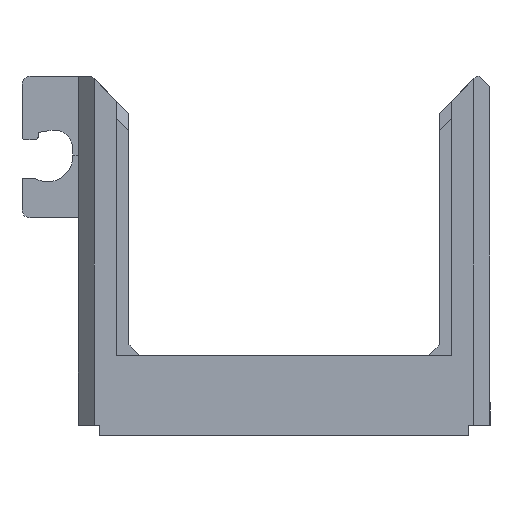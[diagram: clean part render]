
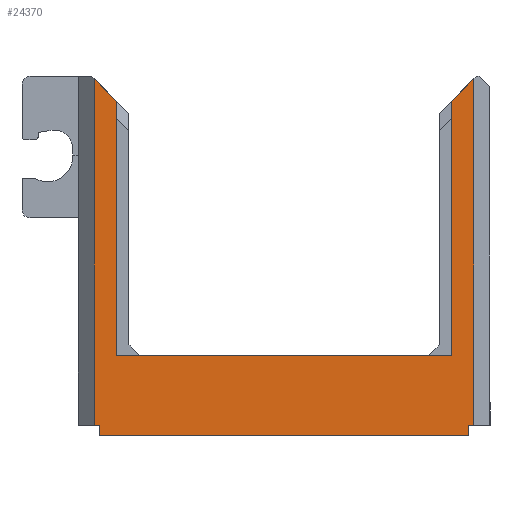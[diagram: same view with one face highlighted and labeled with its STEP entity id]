
A CAD part, front view. The second image highlights one B-rep face of the part: STEP entity #24370.
In plain terms, the highlighted planar face has unit normal (0, -1, 0).
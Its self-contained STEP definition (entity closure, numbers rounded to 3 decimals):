
#57 = CARTESIAN_POINT ( 'NONE',  ( -14.6, -9.9, 0. ) ) ;
#935 = VERTEX_POINT ( 'NONE', #13918 ) ;
#1046 = VECTOR ( 'NONE', #9262, 1000. ) ;
#1364 = ORIENTED_EDGE ( 'NONE', *, *, #17674, .F. ) ;
#1629 = ORIENTED_EDGE ( 'NONE', *, *, #25812, .F. ) ;
#1766 = CARTESIAN_POINT ( 'NONE',  ( -15.4, -9.9, 0.4 ) ) ;
#1941 = CARTESIAN_POINT ( 'NONE',  ( -1.45, -9.9, 3. ) ) ;
#1963 = CARTESIAN_POINT ( 'NONE',  ( -14.8, -9.9, 0.4 ) ) ;
#2304 = VERTEX_POINT ( 'NONE', #2964 ) ;
#2455 = LINE ( 'NONE', #12529, #8891 ) ;
#2525 = VERTEX_POINT ( 'NONE', #4225 ) ;
#2846 = VERTEX_POINT ( 'NONE', #6151 ) ;
#2863 = VERTEX_POINT ( 'NONE', #1963 ) ;
#2964 = CARTESIAN_POINT ( 'NONE',  ( -0.8, -9.9, 0.4 ) ) ;
#3003 = LINE ( 'NONE', #18678, #10203 ) ;
#3503 = LINE ( 'NONE', #11226, #1046 ) ;
#4225 = CARTESIAN_POINT ( 'NONE',  ( -13.95, -9.9, 12.5 ) ) ;
#4602 = DIRECTION ( 'NONE',  ( -1., 0., 0. ) ) ;
#4818 = DIRECTION ( 'NONE',  ( 0., 0., 1. ) ) ;
#4940 = DIRECTION ( 'NONE',  ( 0., 0., 1. ) ) ;
#5002 = DIRECTION ( 'NONE',  ( 0., 0., -1. ) ) ;
#5754 = CARTESIAN_POINT ( 'NONE',  ( -13.5, -9.9, 12.05 ) ) ;
#5884 = LINE ( 'NONE', #5754, #18119 ) ;
#6151 = CARTESIAN_POINT ( 'NONE',  ( -0.6, -9.9, 0.4 ) ) ;
#6392 = CARTESIAN_POINT ( 'NONE',  ( -13.95, -9.9, 3. ) ) ;
#6613 = PLANE ( 'NONE',  #7501 ) ;
#7501 = AXIS2_PLACEMENT_3D ( 'NONE', #8957, #20849, #14587 ) ;
#7607 = VECTOR ( 'NONE', #17553, 1000. ) ;
#7716 = CARTESIAN_POINT ( 'NONE',  ( 0., -9.9, 0.4 ) ) ;
#8153 = VERTEX_POINT ( 'NONE', #17308 ) ;
#8704 = FACE_OUTER_BOUND ( 'NONE', #14841, .T. ) ;
#8764 = VECTOR ( 'NONE', #4818, 1000. ) ;
#8891 = VECTOR ( 'NONE', #16564, 1000. ) ;
#8957 = CARTESIAN_POINT ( 'NONE',  ( -16.55, -9.9, 10.45 ) ) ;
#9245 = EDGE_CURVE ( 'NONE', #15540, #2863, #15360, .T. ) ;
#9262 = DIRECTION ( 'NONE',  ( -1., 0., 0. ) ) ;
#9433 = DIRECTION ( 'NONE',  ( -1., 0., 0. ) ) ;
#9463 = EDGE_CURVE ( 'NONE', #935, #15540, #9993, .T. ) ;
#9794 = VERTEX_POINT ( 'NONE', #22251 ) ;
#9993 = LINE ( 'NONE', #57, #18040 ) ;
#10095 = LINE ( 'NONE', #16107, #16039 ) ;
#10203 = VECTOR ( 'NONE', #25078, 1000. ) ;
#10708 = VERTEX_POINT ( 'NONE', #18867 ) ;
#10866 = ORIENTED_EDGE ( 'NONE', *, *, #17021, .F. ) ;
#11139 = EDGE_CURVE ( 'NONE', #22555, #22690, #10095, .T. ) ;
#11219 = ORIENTED_EDGE ( 'NONE', *, *, #9245, .F. ) ;
#11226 = CARTESIAN_POINT ( 'NONE',  ( 0., -9.9, 0. ) ) ;
#11394 = VECTOR ( 'NONE', #9433, 1000. ) ;
#11511 = ORIENTED_EDGE ( 'NONE', *, *, #12770, .T. ) ;
#11818 = EDGE_CURVE ( 'NONE', #12922, #935, #3503, .T. ) ;
#11863 = ORIENTED_EDGE ( 'NONE', *, *, #11818, .F. ) ;
#12039 = LINE ( 'NONE', #7716, #11394 ) ;
#12099 = DIRECTION ( 'NONE',  ( 0., 0., 1. ) ) ;
#12466 = EDGE_CURVE ( 'NONE', #2525, #8153, #5884, .T. ) ;
#12529 = CARTESIAN_POINT ( 'NONE',  ( -13.95, -9.9, 10.45 ) ) ;
#12770 = EDGE_CURVE ( 'NONE', #10708, #9794, #3003, .T. ) ;
#12922 = VERTEX_POINT ( 'NONE', #19577 ) ;
#13918 = CARTESIAN_POINT ( 'NONE',  ( -14.6, -9.9, 0. ) ) ;
#13992 = DIRECTION ( 'NONE',  ( -0.707, 0., 0.707 ) ) ;
#14395 = ORIENTED_EDGE ( 'NONE', *, *, #12466, .T. ) ;
#14587 = DIRECTION ( 'NONE',  ( 0., 0., -1. ) ) ;
#14750 = CARTESIAN_POINT ( 'NONE',  ( -14.8, -9.9, -0.449 ) ) ;
#14841 = EDGE_LOOP ( 'NONE', ( #24143, #17944, #10866, #14395, #15600, #11219, #18180, #11863, #1629, #24575, #1364, #11511 ) ) ;
#15360 = LINE ( 'NONE', #1766, #25558 ) ;
#15540 = VERTEX_POINT ( 'NONE', #22090 ) ;
#15600 = ORIENTED_EDGE ( 'NONE', *, *, #24043, .F. ) ;
#15718 = CARTESIAN_POINT ( 'NONE',  ( -0.6, -9.9, 14.299 ) ) ;
#16039 = VECTOR ( 'NONE', #4602, 1000. ) ;
#16107 = CARTESIAN_POINT ( 'NONE',  ( -1.9, -9.9, 3. ) ) ;
#16534 = EDGE_CURVE ( 'NONE', #2846, #2304, #12039, .T. ) ;
#16564 = DIRECTION ( 'NONE',  ( 0., 0., -1. ) ) ;
#16572 = LINE ( 'NONE', #16826, #22471 ) ;
#16705 = LINE ( 'NONE', #14750, #8764 ) ;
#16826 = CARTESIAN_POINT ( 'NONE',  ( -1.45, -9.9, 10.45 ) ) ;
#17021 = EDGE_CURVE ( 'NONE', #2525, #22690, #2455, .T. ) ;
#17287 = VECTOR ( 'NONE', #5002, 1000. ) ;
#17308 = CARTESIAN_POINT ( 'NONE',  ( -14.8, -9.9, 13.35 ) ) ;
#17553 = DIRECTION ( 'NONE',  ( 0., 0., -1. ) ) ;
#17674 = EDGE_CURVE ( 'NONE', #10708, #2846, #23439, .T. ) ;
#17698 = DIRECTION ( 'NONE',  ( -1., 0., 0. ) ) ;
#17944 = ORIENTED_EDGE ( 'NONE', *, *, #11139, .T. ) ;
#18040 = VECTOR ( 'NONE', #12099, 1000. ) ;
#18119 = VECTOR ( 'NONE', #13992, 1000. ) ;
#18180 = ORIENTED_EDGE ( 'NONE', *, *, #9463, .F. ) ;
#18678 = CARTESIAN_POINT ( 'NONE',  ( -0.5, -9.9, 13.45 ) ) ;
#18867 = CARTESIAN_POINT ( 'NONE',  ( -0.6, -9.9, 13.35 ) ) ;
#19577 = CARTESIAN_POINT ( 'NONE',  ( -0.8, -9.9, 0. ) ) ;
#20849 = DIRECTION ( 'NONE',  ( 0., -1., 0. ) ) ;
#22090 = CARTESIAN_POINT ( 'NONE',  ( -14.6, -9.9, 0.4 ) ) ;
#22251 = CARTESIAN_POINT ( 'NONE',  ( -1.45, -9.9, 12.5 ) ) ;
#22471 = VECTOR ( 'NONE', #4940, 1000. ) ;
#22555 = VERTEX_POINT ( 'NONE', #1941 ) ;
#22690 = VERTEX_POINT ( 'NONE', #6392 ) ;
#22758 = EDGE_CURVE ( 'NONE', #22555, #9794, #16572, .T. ) ;
#22899 = CARTESIAN_POINT ( 'NONE',  ( -0.8, -9.9, 0. ) ) ;
#23439 = LINE ( 'NONE', #15718, #7607 ) ;
#24043 = EDGE_CURVE ( 'NONE', #2863, #8153, #16705, .T. ) ;
#24143 = ORIENTED_EDGE ( 'NONE', *, *, #22758, .F. ) ;
#24370 = ADVANCED_FACE ( 'NONE', ( #8704 ), #6613, .T. ) ;
#24575 = ORIENTED_EDGE ( 'NONE', *, *, #16534, .F. ) ;
#24862 = LINE ( 'NONE', #22899, #17287 ) ;
#25078 = DIRECTION ( 'NONE',  ( -0.707, 0., -0.707 ) ) ;
#25558 = VECTOR ( 'NONE', #17698, 1000. ) ;
#25812 = EDGE_CURVE ( 'NONE', #2304, #12922, #24862, .T. ) ;
